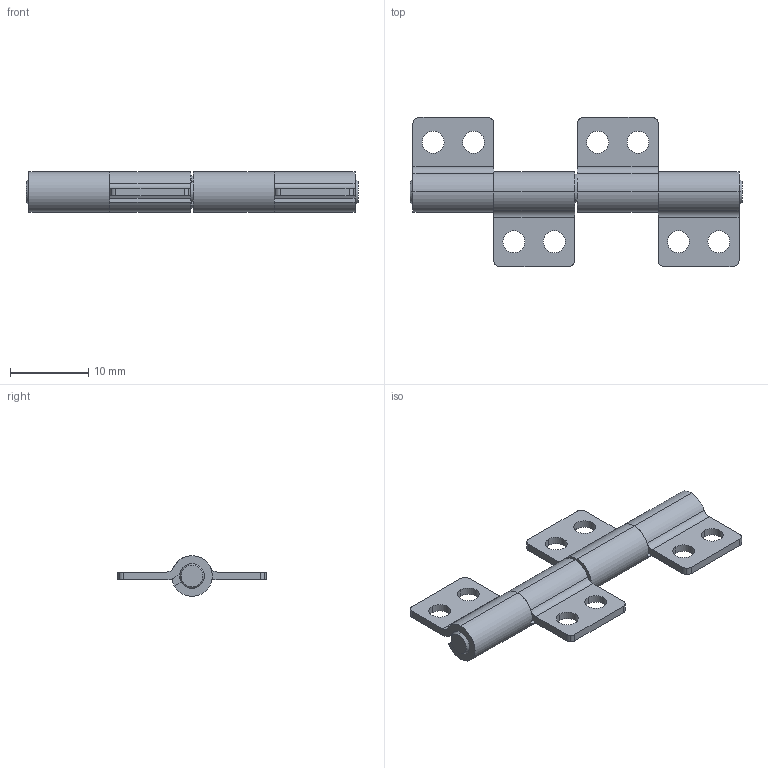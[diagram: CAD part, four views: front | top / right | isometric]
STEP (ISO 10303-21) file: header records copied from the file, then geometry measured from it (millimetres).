
FILE_DESCRIPTION(('STEP AP214'),'1');
FILE_NAME('C:/Users/HAN/Desktop/0500-0002-HNG R Rev 0_0.stp','2014-01-02T19:24:20',(' '),(' '),'Spatial InterOp 3D',' ',' ');
FILE_SCHEMA(('automotive_design'));
Length unit declared in the file: inch
Products named in the file (6): 0500-0001-BND Rev 0_0; 0500-0003-SHA Rev 0_0; Snap Ring 2000-12
Bounding box: 42.39 x 19.05 x 5.17 mm (x, y, z)
Volume: 1073.5 mm3; surface area: 2234.7 mm2
Topology: 6 solids, 6 shells, 120 faces, 314 edges, 208 vertices
Faces by surface type: cylinder 80, plane 36, cone 4
Entity records: 4853 total; most frequent: DIRECTION 730, CARTESIAN_POINT 648, ORIENTED_EDGE 628, EDGE_CURVE 314, AXIS2_PLACEMENT_3D 290, VERTEX_POINT 208, CIRCLE 164, LINE 150
